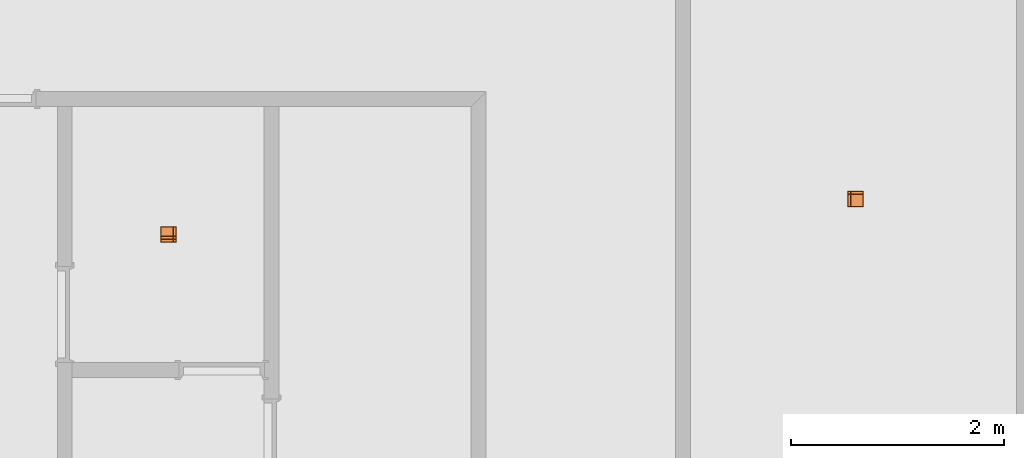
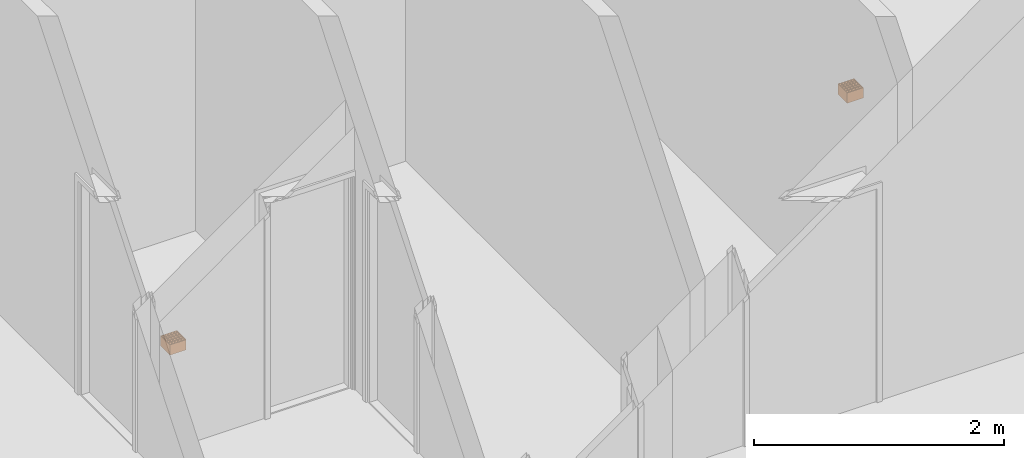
# One storey, part 86 of 112: 2 proxies.
"""IFC2X3 building model written with IfcOpenShell, lengths in millimetres."""

import ifcopenshell
import ifcopenshell.guid

model = None  # the IFC model being written
_history = None  # IfcOwnerHistory: only IFC2X3 demands one
_inside = {}  # id of a spatial element -> (the spatial element, [elements in it])
_under = {}  # id of a project, library or spatial element -> (it, [spatial elements below it])
_declared = {}  # id of a project -> (the project, [libraries it declares])
_typed = {}  # id of a type object -> (the type object, [elements of that type])
_made_of = {}  # id of a material, layer set ... -> (it, [elements and type objects made of it])


def new_model(schema):
    """Start an empty IFC model of exactly this schema.

    Asked for "IFC4X3", IfcOpenShell would pick the latest addendum, in which some entities
    have other attributes; the version numbers below select the first issue.
    IFC2X3 requires an IfcOwnerHistory on every rooted entity: one is made here for all.
    """
    global model, _history
    if schema == "IFC4X3":
        model = ifcopenshell.file(schema_version=(4, 3, 0, 0))
    else:
        model = ifcopenshell.file(schema=schema)
    _inside.clear()
    _under.clear()
    _declared.clear()
    _typed.clear()
    _made_of.clear()
    _history = None
    if model.schema == "IFC2X3":
        org = make("IfcOrganization", Name="unknown")
        user = make(
            "IfcPersonAndOrganization",
            ThePerson=make("IfcPerson", FamilyName="unknown"),
            TheOrganization=org,
        )
        app = make(
            "IfcApplication",
            ApplicationDeveloper=org,
            Version="unknown",
            ApplicationFullName="unknown",
            ApplicationIdentifier="unknown",
        )
        _history = make(
            "IfcOwnerHistory",
            OwningUser=user,
            OwningApplication=app,
            ChangeAction="ADDED",
            CreationDate=0,
        )
    return model


def make(cls, **values):
    """One entity of the class cls with the attributes given. An attribute that is None is left unset."""
    return model.create_entity(
        cls, **{name: value for name, value in values.items() if value is not None}
    )


def entity(cls, *values):
    """Any entity or typed value of the class cls, its attributes in the order of the schema. None: left unset."""
    e = model.create_entity(cls)
    for i, value in enumerate(values):
        if value is not None:
            e[i] = value
    return e


def rooted(cls, **values):
    """An entity with a GlobalId (a new one), such as an element, a storey or a relation."""
    return make(cls, GlobalId=ifcopenshell.guid.new(), OwnerHistory=_history, **values)


def si_unit(unit_type, name, prefix=None):
    """IfcSIUnit, for example si_unit("LENGTHUNIT", "METRE", prefix="MILLI")."""
    return make("IfcSIUnit", UnitType=unit_type, Prefix=prefix, Name=name)


def converted_unit(unit_type, name, factor, base, dimensions=None, offset=None):
    """IfcConversionBasedUnit, such as the inch: factor (a typed value) times the base unit."""
    return make(
        "IfcConversionBasedUnit"
        if offset is None
        else "IfcConversionBasedUnitWithOffset",
        ConversionOffset=offset,
        Dimensions=None
        if dimensions is None
        else entity("IfcDimensionalExponents", *dimensions),
        UnitType=unit_type,
        Name=name,
        ConversionFactor=make(
            "IfcMeasureWithUnit", ValueComponent=factor, UnitComponent=base
        ),
    )


def derived_unit(unit_type, elements):
    """IfcDerivedUnit: a product of units, each with its exponent."""
    return make(
        "IfcDerivedUnit",
        Elements=[
            make("IfcDerivedUnitElement", Unit=unit, Exponent=power)
            for unit, power in elements
        ],
        UnitType=unit_type,
    )


def money_unit(currency):
    """IfcMonetaryUnit."""
    return make("IfcMonetaryUnit", Currency=currency)


def assignment(units):
    """IfcUnitAssignment: the units of a project."""
    return None if units is None else make("IfcUnitAssignment", Units=units)


def point(xyz):
    """IfcCartesianPoint."""
    return None if xyz is None else make("IfcCartesianPoint", Coordinates=xyz)


def direction(xyz):
    """IfcDirection."""
    return None if xyz is None else make("IfcDirection", DirectionRatios=xyz)


def frame(location, z_axis=None, x_axis=None):
    """IfcAxis2Placement3D, a coordinate frame: its origin and axes. An axis left out is left unset."""
    return make(
        "IfcAxis2Placement3D",
        Location=point(location),
        Axis=direction(z_axis),
        RefDirection=direction(x_axis),
    )


def origin_with_axes():
    """The frame at (0, 0, 0) with the z axis (0, 0, 1) and the x axis (1, 0, 0) written out."""
    return frame((0.0, 0.0, 0.0), z_axis=(0.0, 0.0, 1.0), x_axis=(1.0, 0.0, 0.0))


def place(relative_to, where):
    """IfcLocalPlacement: puts the frame where relative to a parent placement (None: the world)."""
    return make(
        "IfcLocalPlacement", PlacementRelTo=relative_to, RelativePlacement=where
    )


def context(
    kind, dimensions, precision=None, world=None, true_north=None, identifier=None
):
    """IfcGeometricRepresentationContext, for example the 3D "Model" context."""
    return make(
        "IfcGeometricRepresentationContext",
        ContextIdentifier=identifier,
        ContextType=kind,
        CoordinateSpaceDimension=dimensions,
        Precision=precision,
        WorldCoordinateSystem=world,
        TrueNorth=true_north,
    )


def subcontext(parent, identifier, kind, view, scale=None):
    """IfcGeometricRepresentationSubContext, for example "Body" below "Model"."""
    return make(
        "IfcGeometricRepresentationSubContext",
        ContextIdentifier=identifier,
        ContextType=kind,
        ParentContext=parent,
        TargetScale=scale,
        TargetView=view,
    )


def project(units=None, contexts=None):
    """IfcProject with its units and contexts."""
    return rooted(
        "IfcProject",
        Name="project",
        RepresentationContexts=contexts,
        UnitsInContext=assignment(units),
    )


def spatial(cls, under=None, at=None, **own):
    """A site, building, storey or space (cls), placed at a placement, below another one or the project."""
    s = rooted(cls, ObjectPlacement=at, **own)
    if under is not None:
        _under.setdefault(under.id(), (under, []))[1].append(s)
    return s


def faces_of(points, faces, orient=None, outer=None):
    """IfcFace entities. A face is a list of loops; a loop is a list of indices into points, from 0.

    orient and outer hold one flag for each loop. By default every Orientation is true, the
    first loop of a face is its IfcFaceOuterBound and the others are IfcFaceBound.
    """
    made = []
    for i, loops in enumerate(faces):
        bounds = []
        for j, loop in enumerate(loops):
            is_outer = j == 0 if outer is None else outer[i][j]
            bounds.append(
                make(
                    "IfcFaceOuterBound" if is_outer else "IfcFaceBound",
                    Bound=make("IfcPolyLoop", Polygon=[points[k] for k in loop]),
                    Orientation=True if orient is None else orient[i][j],
                )
            )
        made.append(make("IfcFace", Bounds=bounds))
    return made


def faceted_brep(points, faces, orient=None, outer=None, voids=None):
    """IfcFacetedBrep: a solid bounded by flat faces; with voids (closed shells), ...WithVoids."""
    shared = [point(p) for p in points]
    hull = make("IfcClosedShell", CfsFaces=faces_of(shared, faces, orient, outer))
    if voids is None:
        return make("IfcFacetedBrep", Outer=hull)
    return make(
        "IfcFacetedBrepWithVoids",
        Outer=hull,
        Voids=[
            make(cls, CfsFaces=faces_of(shared, fs, o, b)) for cls, fs, o, b in voids
        ],
    )


def shape(context_of_items, identifier, shape_type, items):
    """IfcShapeRepresentation: the items that make up one representation, for example the "Body"."""
    return make(
        "IfcShapeRepresentation",
        ContextOfItems=context_of_items,
        RepresentationIdentifier=identifier,
        RepresentationType=shape_type,
        Items=items,
    )


def source(mapping_origin, context_of_items, identifier, shape_type, items):
    """IfcRepresentationMap: a shape defined once, which mapped items show again and again."""
    return make(
        "IfcRepresentationMap",
        MappingOrigin=mapping_origin,
        MappedRepresentation=shape(context_of_items, identifier, shape_type, items),
    )


def transform(
    local_origin,
    x_axis=None,
    y_axis=None,
    z_axis=None,
    scale=None,
    scale2=None,
    scale3=None,
    uniform=True,
):
    """IfcCartesianTransformationOperator3D, or its non-uniform kind. x_axis, y_axis, z_axis: its Axis1, 2, 3."""
    if uniform:
        return make(
            "IfcCartesianTransformationOperator3D",
            Axis1=direction(x_axis),
            Axis2=direction(y_axis),
            LocalOrigin=point(local_origin),
            Scale=scale,
            Axis3=direction(z_axis),
        )
    return make(
        "IfcCartesianTransformationOperator3DnonUniform",
        Axis1=direction(x_axis),
        Axis2=direction(y_axis),
        LocalOrigin=point(local_origin),
        Scale=scale,
        Axis3=direction(z_axis),
        Scale2=scale2,
        Scale3=scale3,
    )


def mapped(mapping_source, mapping_target):
    """IfcMappedItem: shows the shape of a source again, moved by a transform."""
    return make(
        "IfcMappedItem", MappingSource=mapping_source, MappingTarget=mapping_target
    )


def made_of(thing, what):
    """Note that an element or type object is made of a material, layer set ...; save() writes the relation."""
    if what is not None:
        _made_of.setdefault(what.id(), (what, []))[1].append(thing)
    return thing


def type_object(cls, material=None, **own):
    """A type object (cls), such as IfcWallType, which elements share."""
    return made_of(rooted(cls, **own), material)


def element(
    cls,
    number,
    at=None,
    inside=None,
    cuts=None,
    type_object=None,
    material=None,
    context=None,
    identifier="Body",
    shape_type=None,
    held_by="IfcProductDefinitionShape",
    body=None,
    shapes=None,
    **own,
):
    """One element of the class cls, such as IfcWall. Its Tag is "e" and its number.

    at: its placement. inside: the storey or other place that contains it. cuts: it is an
    opening in that element (IfcRelVoidsElement). A single representation is given by context,
    identifier, shape_type and body (its items); several are given by shapes. held_by: the class
    of the entity that holds the representations. save() writes the other relations.
    """
    e = rooted(cls, Tag="e%d" % number, ObjectPlacement=at, **own)
    if body is not None:
        shapes = [shape(context, identifier, shape_type, body)]
    if shapes is not None:
        e.Representation = make(held_by, Representations=shapes)
    if inside is not None:
        _inside.setdefault(inside.id(), (inside, []))[1].append(e)
    if cuts is not None:
        rooted(
            "IfcRelVoidsElement", RelatingBuildingElement=cuts, RelatedOpeningElement=e
        )
    if type_object is not None:
        _typed.setdefault(type_object.id(), (type_object, []))[1].append(e)
    return made_of(e, material)


def aggregate(whole, parts):
    """IfcRelAggregates: a whole, such as a stair, and the parts it consists of."""
    return rooted("IfcRelAggregates", RelatingObject=whole, RelatedObjects=parts)


def save(model, path):
    """Write the relations noted so far, then the file.

    IfcRelAggregates (storeys below a building ...), IfcRelContainedInSpatialStructure (elements
    in a storey), IfcRelDefinesByType, IfcRelAssociatesMaterial and IfcRelDeclares: one each for
    every whole, place, type object, material and project.
    """
    for whole, parts in _under.values():
        aggregate(whole, parts)
    for where, things in _inside.values():
        rooted(
            "IfcRelContainedInSpatialStructure",
            RelatedElements=things,
            RelatingStructure=where,
        )
    for kind, things in _typed.values():
        rooted("IfcRelDefinesByType", RelatedObjects=things, RelatingType=kind)
    for what, things in _made_of.values():
        rooted("IfcRelAssociatesMaterial", RelatedObjects=things, RelatingMaterial=what)
    for by, libraries in _declared.values():
        rooted("IfcRelDeclares", RelatingContext=by, RelatedDefinitions=libraries)
    model.write(path)


model = new_model("IFC2X3")

# Units and contexts
model_context = context("Model", 3, precision=0.01, world=origin_with_axes(), true_north=direction((0.0, 1.0)))
body_context = subcontext(model_context, "Body", "Model", "MODEL_VIEW")
ifc_project = project(units=[si_unit("LENGTHUNIT", "METRE", prefix="MILLI"), si_unit("AREAUNIT", "SQUARE_METRE"), si_unit("VOLUMEUNIT", "CUBIC_METRE"), converted_unit("PLANEANGLEUNIT", "DEGREE", entity("IfcPlaneAngleMeasure", 0.0174532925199), si_unit("PLANEANGLEUNIT", "RADIAN"), dimensions=[0, 0, 0, 0, 0, 0, 0]), si_unit("SOLIDANGLEUNIT", "STERADIAN"), money_unit("EUR"), converted_unit("TIMEUNIT", "Year", entity("IfcTimeMeasure", 31556926.0), si_unit("TIMEUNIT", "SECOND"), dimensions=[0, 0, 1, 0, 0, 0, 0]), si_unit("MASSUNIT", "GRAM", prefix="KILO"), si_unit("THERMODYNAMICTEMPERATUREUNIT", "DEGREE_CELSIUS"), si_unit("LUMINOUSINTENSITYUNIT", "LUMEN"), si_unit("ENERGYUNIT", "JOULE", prefix="MEGA"), derived_unit("THERMALCONDUCTANCEUNIT", [(si_unit("POWERUNIT", "WATT"), 1), (si_unit("LENGTHUNIT", "METRE"), -1), (si_unit("THERMODYNAMICTEMPERATUREUNIT", "KELVIN"), -1)]), derived_unit("SPECIFICHEATCAPACITYUNIT", [(si_unit("ENERGYUNIT", "JOULE"), 1), (si_unit("MASSUNIT", "GRAM", prefix="KILO"), -1), (si_unit("THERMODYNAMICTEMPERATUREUNIT", "KELVIN"), -1)]), derived_unit("MASSDENSITYUNIT", [(si_unit("MASSUNIT", "GRAM", prefix="KILO"), 1), (si_unit("VOLUMEUNIT", "CUBIC_METRE"), -1)])], contexts=[model_context])

# Site, building, storey
site_placement = place(None, origin_with_axes())
site = spatial("IfcSite", under=ifc_project, at=site_placement, Name="Politse- ja Piirivalveameti ning Päästeameti ühishoone", CompositionType="ELEMENT")
building_placement = place(site_placement, origin_with_axes())
building = spatial("IfcBuilding", under=site, at=building_placement, Name="Politse- ja Piirivalveameti ning Päästeameti ühishoone", CompositionType="ELEMENT")
storey_placement = place(building_placement, origin_with_axes())
storey = spatial("IfcBuildingStorey", under=building, at=storey_placement, Name="Esimene korrus", CompositionType="ELEMENT", Elevation=0.0)

# Proxies
building_element_proxy_type = type_object("IfcBuildingElementProxyType", Name="Grid 23", PredefinedType="NOTDEFINED")
shared_shape = source(origin_with_axes(), body_context, "Body", "Brep", [
    faceted_brep([(0.0, 0.0, 0.0), (5.0, 5.0, 0.0), (5.0, 5.0, 100.0), (0.0, 0.0, 100.0), (0.0, 150.0, 0.0), (5.0, 145.0, 0.0), (5.0, 119.5, 0.0), (5.0, 117.5, 0.0), (5.0, 90.5, 0.0), (5.0, 88.5, 0.0), (5.0, 61.5, 0.0), (5.0, 59.5, 0.0), (5.0, 32.5, 0.0), (5.0, 30.5, 0.0), (5.0, 30.5, 100.0), (5.0, 32.5, 100.0), (5.0, 59.5, 100.0), (5.0, 61.5, 100.0), (5.0, 88.5, 100.0), (5.0, 90.5, 100.0), (5.0, 117.5, 100.0), (5.0, 119.5, 100.0), (5.0, 145.0, 100.0), (0.0, 150.0, 100.0)], [[[0, 1, 2, 3]], [[0, 4, 5, 6, 7, 8, 9, 10, 11, 12, 13, 1]], [[1, 13, 14, 2]], [[3, 2, 14, 15, 16, 17, 18, 19, 20, 21, 22, 23]], [[4, 0, 3, 23]], [[5, 4, 23, 22]], [[6, 5, 22, 21]], [[7, 6, 21, 20]], [[8, 7, 20, 19]], [[9, 8, 19, 18]], [[10, 9, 18, 17]], [[11, 10, 17, 16]], [[12, 11, 16, 15]], [[13, 12, 15, 14]]]),
    faceted_brep([(150.0, 150.0, 0.0), (145.0, 145.0, 0.0), (145.0, 145.0, 100.0), (150.0, 150.0, 100.0), (150.0, 0.0, 0.0), (145.0, 5.0, 0.0), (145.0, 30.5, 0.0), (145.0, 32.5, 0.0), (145.0, 59.5, 0.0), (145.0, 61.5, 0.0), (145.0, 88.5, 0.0), (145.0, 90.5, 0.0), (145.0, 117.5, 0.0), (145.0, 119.5, 0.0), (145.0, 119.5, 100.0), (145.0, 117.5, 100.0), (145.0, 90.5, 100.0), (145.0, 88.5, 100.0), (145.0, 61.5, 100.0), (145.0, 59.5, 100.0), (145.0, 32.5, 100.0), (145.0, 30.5, 100.0), (145.0, 5.0, 100.0), (150.0, 0.0, 100.0)], [[[0, 1, 2, 3]], [[0, 4, 5, 6, 7, 8, 9, 10, 11, 12, 13, 1]], [[1, 13, 14, 2]], [[3, 2, 14, 15, 16, 17, 18, 19, 20, 21, 22, 23]], [[4, 0, 3, 23]], [[5, 4, 23, 22]], [[6, 5, 22, 21]], [[7, 6, 21, 20]], [[8, 7, 20, 19]], [[9, 8, 19, 18]], [[10, 9, 18, 17]], [[11, 10, 17, 16]], [[12, 11, 16, 15]], [[13, 12, 15, 14]]]),
    faceted_brep([(150.0, 0.0, 0.0), (145.0, 5.0, 0.0), (145.0, 5.0, 100.0), (150.0, 0.0, 100.0), (0.0, 0.0, 0.0), (5.0, 5.0, 0.0), (30.5, 5.0, 0.0), (32.5, 5.0, 0.0), (59.5, 5.0, 0.0), (61.5, 5.0, 0.0), (88.5, 5.0, 0.0), (90.5, 5.0, 0.0), (117.5, 5.0, 0.0), (119.5, 5.0, 0.0), (119.5, 5.0, 100.0), (117.5, 5.0, 100.0), (90.5, 5.0, 100.0), (88.5, 5.0, 100.0), (61.5, 5.0, 100.0), (59.5, 5.0, 100.0), (32.5, 5.0, 100.0), (30.5, 5.0, 100.0), (5.0, 5.0, 100.0), (0.0, 0.0, 100.0)], [[[0, 1, 2, 3]], [[0, 4, 5, 6, 7, 8, 9, 10, 11, 12, 13, 1]], [[1, 13, 14, 2]], [[3, 2, 14, 15, 16, 17, 18, 19, 20, 21, 22, 23]], [[4, 0, 3, 23]], [[5, 4, 23, 22]], [[6, 5, 22, 21]], [[7, 6, 21, 20]], [[8, 7, 20, 19]], [[9, 8, 19, 18]], [[10, 9, 18, 17]], [[11, 10, 17, 16]], [[12, 11, 16, 15]], [[13, 12, 15, 14]]]),
    faceted_brep([(0.0, 150.0, 0.0), (5.0, 145.0, 0.0), (5.0, 145.0, 100.0), (0.0, 150.0, 100.0), (150.0, 150.0, 0.0), (145.0, 145.0, 0.0), (119.5, 145.0, 0.0), (117.5, 145.0, 0.0), (90.5, 145.0, 0.0), (88.5, 145.0, 0.0), (61.5, 145.0, 0.0), (59.5, 145.0, 0.0), (32.5, 145.0, 0.0), (30.5, 145.0, 0.0), (30.5, 145.0, 100.0), (32.5, 145.0, 100.0), (59.5, 145.0, 100.0), (61.5, 145.0, 100.0), (88.5, 145.0, 100.0), (90.5, 145.0, 100.0), (117.5, 145.0, 100.0), (119.5, 145.0, 100.0), (145.0, 145.0, 100.0), (150.0, 150.0, 100.0)], [[[0, 1, 2, 3]], [[0, 4, 5, 6, 7, 8, 9, 10, 11, 12, 13, 1]], [[1, 13, 14, 2]], [[3, 2, 14, 15, 16, 17, 18, 19, 20, 21, 22, 23]], [[4, 0, 3, 23]], [[5, 4, 23, 22]], [[6, 5, 22, 21]], [[7, 6, 21, 20]], [[8, 7, 20, 19]], [[9, 8, 19, 18]], [[10, 9, 18, 17]], [[11, 10, 17, 16]], [[12, 11, 16, 15]], [[13, 12, 15, 14]]]),
    faceted_brep([(30.5, 5.0, 0.0), (32.5, 5.0, 0.0), (32.5, 5.0, 100.0), (30.5, 5.0, 100.0), (30.5, 30.5, 0.0), (30.5, 32.5, 0.0), (30.5, 59.5, 0.0), (30.5, 61.5, 0.0), (30.5, 88.5, 0.0), (30.5, 90.5, 0.0), (30.5, 117.5, 0.0), (30.5, 119.5, 0.0), (30.5, 145.0, 0.0), (32.5, 145.0, 0.0), (32.5, 119.5, 0.0), (32.5, 117.5, 0.0), (32.5, 90.5, 0.0), (32.5, 88.5, 0.0), (32.5, 61.5, 0.0), (32.5, 59.5, 0.0), (32.5, 32.5, 0.0), (32.5, 30.5, 0.0), (32.5, 30.5, 100.0), (32.5, 32.5, 100.0), (32.5, 59.5, 100.0), (32.5, 61.5, 100.0), (32.5, 88.5, 100.0), (32.5, 90.5, 100.0), (32.5, 117.5, 100.0), (32.5, 119.5, 100.0), (32.5, 145.0, 100.0), (30.5, 145.0, 100.0), (30.5, 119.5, 100.0), (30.5, 117.5, 100.0), (30.5, 90.5, 100.0), (30.5, 88.5, 100.0), (30.5, 61.5, 100.0), (30.5, 59.5, 100.0), (30.5, 32.5, 100.0), (30.5, 30.5, 100.0)], [[[0, 1, 2, 3]], [[0, 4, 5, 6, 7, 8, 9, 10, 11, 12, 13, 14, 15, 16, 17, 18, 19, 20, 21, 1]], [[1, 21, 22, 2]], [[3, 2, 22, 23, 24, 25, 26, 27, 28, 29, 30, 31, 32, 33, 34, 35, 36, 37, 38, 39]], [[4, 0, 3, 39]], [[5, 4, 39, 38]], [[6, 5, 38, 37]], [[7, 6, 37, 36]], [[8, 7, 36, 35]], [[9, 8, 35, 34]], [[10, 9, 34, 33]], [[11, 10, 33, 32]], [[12, 11, 32, 31]], [[13, 12, 31, 30]], [[14, 13, 30, 29]], [[15, 14, 29, 28]], [[16, 15, 28, 27]], [[17, 16, 27, 26]], [[18, 17, 26, 25]], [[19, 18, 25, 24]], [[20, 19, 24, 23]], [[21, 20, 23, 22]]]),
    faceted_brep([(59.5, 5.0, 0.0), (61.5, 5.0, 0.0), (61.5, 5.0, 100.0), (59.5, 5.0, 100.0), (59.5, 30.5, 0.0), (59.5, 32.5, 0.0), (59.5, 59.5, 0.0), (59.5, 61.5, 0.0), (59.5, 88.5, 0.0), (59.5, 90.5, 0.0), (59.5, 117.5, 0.0), (59.5, 119.5, 0.0), (59.5, 145.0, 0.0), (61.5, 145.0, 0.0), (61.5, 119.5, 0.0), (61.5, 117.5, 0.0), (61.5, 90.5, 0.0), (61.5, 88.5, 0.0), (61.5, 61.5, 0.0), (61.5, 59.5, 0.0), (61.5, 32.5, 0.0), (61.5, 30.5, 0.0), (61.5, 30.5, 100.0), (61.5, 32.5, 100.0), (61.5, 59.5, 100.0), (61.5, 61.5, 100.0), (61.5, 88.5, 100.0), (61.5, 90.5, 100.0), (61.5, 117.5, 100.0), (61.5, 119.5, 100.0), (61.5, 145.0, 100.0), (59.5, 145.0, 100.0), (59.5, 119.5, 100.0), (59.5, 117.5, 100.0), (59.5, 90.5, 100.0), (59.5, 88.5, 100.0), (59.5, 61.5, 100.0), (59.5, 59.5, 100.0), (59.5, 32.5, 100.0), (59.5, 30.5, 100.0)], [[[0, 1, 2, 3]], [[0, 4, 5, 6, 7, 8, 9, 10, 11, 12, 13, 14, 15, 16, 17, 18, 19, 20, 21, 1]], [[1, 21, 22, 2]], [[3, 2, 22, 23, 24, 25, 26, 27, 28, 29, 30, 31, 32, 33, 34, 35, 36, 37, 38, 39]], [[4, 0, 3, 39]], [[5, 4, 39, 38]], [[6, 5, 38, 37]], [[7, 6, 37, 36]], [[8, 7, 36, 35]], [[9, 8, 35, 34]], [[10, 9, 34, 33]], [[11, 10, 33, 32]], [[12, 11, 32, 31]], [[13, 12, 31, 30]], [[14, 13, 30, 29]], [[15, 14, 29, 28]], [[16, 15, 28, 27]], [[17, 16, 27, 26]], [[18, 17, 26, 25]], [[19, 18, 25, 24]], [[20, 19, 24, 23]], [[21, 20, 23, 22]]]),
    faceted_brep([(88.5, 5.0, 0.0), (90.5, 5.0, 0.0), (90.5, 5.0, 100.0), (88.5, 5.0, 100.0), (88.5, 30.5, 0.0), (88.5, 32.5, 0.0), (88.5, 59.5, 0.0), (88.5, 61.5, 0.0), (88.5, 88.5, 0.0), (88.5, 90.5, 0.0), (88.5, 117.5, 0.0), (88.5, 119.5, 0.0), (88.5, 145.0, 0.0), (90.5, 145.0, 0.0), (90.5, 119.5, 0.0), (90.5, 117.5, 0.0), (90.5, 90.5, 0.0), (90.5, 88.5, 0.0), (90.5, 61.5, 0.0), (90.5, 59.5, 0.0), (90.5, 32.5, 0.0), (90.5, 30.5, 0.0), (90.5, 30.5, 100.0), (90.5, 32.5, 100.0), (90.5, 59.5, 100.0), (90.5, 61.5, 100.0), (90.5, 88.5, 100.0), (90.5, 90.5, 100.0), (90.5, 117.5, 100.0), (90.5, 119.5, 100.0), (90.5, 145.0, 100.0), (88.5, 145.0, 100.0), (88.5, 119.5, 100.0), (88.5, 117.5, 100.0), (88.5, 90.5, 100.0), (88.5, 88.5, 100.0), (88.5, 61.5, 100.0), (88.5, 59.5, 100.0), (88.5, 32.5, 100.0), (88.5, 30.5, 100.0)], [[[0, 1, 2, 3]], [[0, 4, 5, 6, 7, 8, 9, 10, 11, 12, 13, 14, 15, 16, 17, 18, 19, 20, 21, 1]], [[1, 21, 22, 2]], [[3, 2, 22, 23, 24, 25, 26, 27, 28, 29, 30, 31, 32, 33, 34, 35, 36, 37, 38, 39]], [[4, 0, 3, 39]], [[5, 4, 39, 38]], [[6, 5, 38, 37]], [[7, 6, 37, 36]], [[8, 7, 36, 35]], [[9, 8, 35, 34]], [[10, 9, 34, 33]], [[11, 10, 33, 32]], [[12, 11, 32, 31]], [[13, 12, 31, 30]], [[14, 13, 30, 29]], [[15, 14, 29, 28]], [[16, 15, 28, 27]], [[17, 16, 27, 26]], [[18, 17, 26, 25]], [[19, 18, 25, 24]], [[20, 19, 24, 23]], [[21, 20, 23, 22]]]),
    faceted_brep([(117.5, 5.0, 0.0), (119.5, 5.0, 0.0), (119.5, 5.0, 100.0), (117.5, 5.0, 100.0), (117.5, 30.5, 0.0), (117.5, 32.5, 0.0), (117.5, 59.5, 0.0), (117.5, 61.5, 0.0), (117.5, 88.5, 0.0), (117.5, 90.5, 0.0), (117.5, 117.5, 0.0), (117.5, 119.5, 0.0), (117.5, 145.0, 0.0), (119.5, 145.0, 0.0), (119.5, 119.5, 0.0), (119.5, 117.5, 0.0), (119.5, 90.5, 0.0), (119.5, 88.5, 0.0), (119.5, 61.5, 0.0), (119.5, 59.5, 0.0), (119.5, 32.5, 0.0), (119.5, 30.5, 0.0), (119.5, 30.5, 100.0), (119.5, 32.5, 100.0), (119.5, 59.5, 100.0), (119.5, 61.5, 100.0), (119.5, 88.5, 100.0), (119.5, 90.5, 100.0), (119.5, 117.5, 100.0), (119.5, 119.5, 100.0), (119.5, 145.0, 100.0), (117.5, 145.0, 100.0), (117.5, 119.5, 100.0), (117.5, 117.5, 100.0), (117.5, 90.5, 100.0), (117.5, 88.5, 100.0), (117.5, 61.5, 100.0), (117.5, 59.5, 100.0), (117.5, 32.5, 100.0), (117.5, 30.5, 100.0)], [[[0, 1, 2, 3]], [[0, 4, 5, 6, 7, 8, 9, 10, 11, 12, 13, 14, 15, 16, 17, 18, 19, 20, 21, 1]], [[1, 21, 22, 2]], [[3, 2, 22, 23, 24, 25, 26, 27, 28, 29, 30, 31, 32, 33, 34, 35, 36, 37, 38, 39]], [[4, 0, 3, 39]], [[5, 4, 39, 38]], [[6, 5, 38, 37]], [[7, 6, 37, 36]], [[8, 7, 36, 35]], [[9, 8, 35, 34]], [[10, 9, 34, 33]], [[11, 10, 33, 32]], [[12, 11, 32, 31]], [[13, 12, 31, 30]], [[14, 13, 30, 29]], [[15, 14, 29, 28]], [[16, 15, 28, 27]], [[17, 16, 27, 26]], [[18, 17, 26, 25]], [[19, 18, 25, 24]], [[20, 19, 24, 23]], [[21, 20, 23, 22]]]),
    faceted_brep([(30.5, 30.5, 0.0), (30.5, 32.5, 0.0), (30.5, 32.5, 100.0), (30.5, 30.5, 100.0), (5.0, 30.5, 0.0), (5.0, 32.5, 0.0), (5.0, 32.5, 100.0), (5.0, 30.5, 100.0)], [[[0, 1, 2, 3]], [[0, 4, 5, 1]], [[1, 5, 6, 2]], [[3, 2, 6, 7]], [[4, 0, 3, 7]], [[5, 4, 7, 6]]]),
    faceted_brep([(30.5, 59.5, 0.0), (30.5, 61.5, 0.0), (30.5, 61.5, 100.0), (30.5, 59.5, 100.0), (5.0, 59.5, 0.0), (5.0, 61.5, 0.0), (5.0, 61.5, 100.0), (5.0, 59.5, 100.0)], [[[0, 1, 2, 3]], [[0, 4, 5, 1]], [[1, 5, 6, 2]], [[3, 2, 6, 7]], [[4, 0, 3, 7]], [[5, 4, 7, 6]]]),
    faceted_brep([(30.5, 88.5, 0.0), (30.5, 90.5, 0.0), (30.5, 90.5, 100.0), (30.5, 88.5, 100.0), (5.0, 88.5, 0.0), (5.0, 90.5, 0.0), (5.0, 90.5, 100.0), (5.0, 88.5, 100.0)], [[[0, 1, 2, 3]], [[0, 4, 5, 1]], [[1, 5, 6, 2]], [[3, 2, 6, 7]], [[4, 0, 3, 7]], [[5, 4, 7, 6]]]),
    faceted_brep([(30.5, 117.5, 0.0), (30.5, 119.5, 0.0), (30.5, 119.5, 100.0), (30.5, 117.5, 100.0), (5.0, 117.5, 0.0), (5.0, 119.5, 0.0), (5.0, 119.5, 100.0), (5.0, 117.5, 100.0)], [[[0, 1, 2, 3]], [[0, 4, 5, 1]], [[1, 5, 6, 2]], [[3, 2, 6, 7]], [[4, 0, 3, 7]], [[5, 4, 7, 6]]]),
    faceted_brep([(59.5, 30.5, 0.0), (59.5, 32.5, 0.0), (59.5, 32.5, 100.0), (59.5, 30.5, 100.0), (32.5, 30.5, 0.0), (32.5, 32.5, 0.0), (32.5, 32.5, 100.0), (32.5, 30.5, 100.0)], [[[0, 1, 2, 3]], [[0, 4, 5, 1]], [[1, 5, 6, 2]], [[3, 2, 6, 7]], [[4, 0, 3, 7]], [[5, 4, 7, 6]]]),
    faceted_brep([(59.5, 59.5, 0.0), (59.5, 61.5, 0.0), (59.5, 61.5, 100.0), (59.5, 59.5, 100.0), (32.5, 59.5, 0.0), (32.5, 61.5, 0.0), (32.5, 61.5, 100.0), (32.5, 59.5, 100.0)], [[[0, 1, 2, 3]], [[0, 4, 5, 1]], [[1, 5, 6, 2]], [[3, 2, 6, 7]], [[4, 0, 3, 7]], [[5, 4, 7, 6]]]),
    faceted_brep([(59.5, 88.5, 0.0), (59.5, 90.5, 0.0), (59.5, 90.5, 100.0), (59.5, 88.5, 100.0), (32.5, 88.5, 0.0), (32.5, 90.5, 0.0), (32.5, 90.5, 100.0), (32.5, 88.5, 100.0)], [[[0, 1, 2, 3]], [[0, 4, 5, 1]], [[1, 5, 6, 2]], [[3, 2, 6, 7]], [[4, 0, 3, 7]], [[5, 4, 7, 6]]]),
    faceted_brep([(59.5, 117.5, 0.0), (59.5, 119.5, 0.0), (59.5, 119.5, 100.0), (59.5, 117.5, 100.0), (32.5, 117.5, 0.0), (32.5, 119.5, 0.0), (32.5, 119.5, 100.0), (32.5, 117.5, 100.0)], [[[0, 1, 2, 3]], [[0, 4, 5, 1]], [[1, 5, 6, 2]], [[3, 2, 6, 7]], [[4, 0, 3, 7]], [[5, 4, 7, 6]]]),
    faceted_brep([(88.5, 30.5, 0.0), (88.5, 32.5, 0.0), (88.5, 32.5, 100.0), (88.5, 30.5, 100.0), (61.5, 30.5, 0.0), (61.5, 32.5, 0.0), (61.5, 32.5, 100.0), (61.5, 30.5, 100.0)], [[[0, 1, 2, 3]], [[0, 4, 5, 1]], [[1, 5, 6, 2]], [[3, 2, 6, 7]], [[4, 0, 3, 7]], [[5, 4, 7, 6]]]),
    faceted_brep([(88.5, 59.5, 0.0), (88.5, 61.5, 0.0), (88.5, 61.5, 100.0), (88.5, 59.5, 100.0), (61.5, 59.5, 0.0), (61.5, 61.5, 0.0), (61.5, 61.5, 100.0), (61.5, 59.5, 100.0)], [[[0, 1, 2, 3]], [[0, 4, 5, 1]], [[1, 5, 6, 2]], [[3, 2, 6, 7]], [[4, 0, 3, 7]], [[5, 4, 7, 6]]]),
    faceted_brep([(88.5, 88.5, 0.0), (88.5, 90.5, 0.0), (88.5, 90.5, 100.0), (88.5, 88.5, 100.0), (61.5, 88.5, 0.0), (61.5, 90.5, 0.0), (61.5, 90.5, 100.0), (61.5, 88.5, 100.0)], [[[0, 1, 2, 3]], [[0, 4, 5, 1]], [[1, 5, 6, 2]], [[3, 2, 6, 7]], [[4, 0, 3, 7]], [[5, 4, 7, 6]]]),
    faceted_brep([(88.5, 117.5, 0.0), (88.5, 119.5, 0.0), (88.5, 119.5, 100.0), (88.5, 117.5, 100.0), (61.5, 117.5, 0.0), (61.5, 119.5, 0.0), (61.5, 119.5, 100.0), (61.5, 117.5, 100.0)], [[[0, 1, 2, 3]], [[0, 4, 5, 1]], [[1, 5, 6, 2]], [[3, 2, 6, 7]], [[4, 0, 3, 7]], [[5, 4, 7, 6]]]),
    faceted_brep([(117.5, 30.5, 0.0), (117.5, 32.5, 0.0), (117.5, 32.5, 100.0), (117.5, 30.5, 100.0), (90.5, 30.5, 0.0), (90.5, 32.5, 0.0), (90.5, 32.5, 100.0), (90.5, 30.5, 100.0)], [[[0, 1, 2, 3]], [[0, 4, 5, 1]], [[1, 5, 6, 2]], [[3, 2, 6, 7]], [[4, 0, 3, 7]], [[5, 4, 7, 6]]]),
    faceted_brep([(117.5, 59.5, 0.0), (117.5, 61.5, 0.0), (117.5, 61.5, 100.0), (117.5, 59.5, 100.0), (90.5, 59.5, 0.0), (90.5, 61.5, 0.0), (90.5, 61.5, 100.0), (90.5, 59.5, 100.0)], [[[0, 1, 2, 3]], [[0, 4, 5, 1]], [[1, 5, 6, 2]], [[3, 2, 6, 7]], [[4, 0, 3, 7]], [[5, 4, 7, 6]]]),
    faceted_brep([(117.5, 88.5, 0.0), (117.5, 90.5, 0.0), (117.5, 90.5, 100.0), (117.5, 88.5, 100.0), (90.5, 88.5, 0.0), (90.5, 90.5, 0.0), (90.5, 90.5, 100.0), (90.5, 88.5, 100.0)], [[[0, 1, 2, 3]], [[0, 4, 5, 1]], [[1, 5, 6, 2]], [[3, 2, 6, 7]], [[4, 0, 3, 7]], [[5, 4, 7, 6]]]),
    faceted_brep([(117.5, 117.5, 0.0), (117.5, 119.5, 0.0), (117.5, 119.5, 100.0), (117.5, 117.5, 100.0), (90.5, 117.5, 0.0), (90.5, 119.5, 0.0), (90.5, 119.5, 100.0), (90.5, 117.5, 100.0)], [[[0, 1, 2, 3]], [[0, 4, 5, 1]], [[1, 5, 6, 2]], [[3, 2, 6, 7]], [[4, 0, 3, 7]], [[5, 4, 7, 6]]]),
    faceted_brep([(145.0, 30.5, 0.0), (145.0, 32.5, 0.0), (145.0, 32.5, 100.0), (145.0, 30.5, 100.0), (119.5, 30.5, 0.0), (119.5, 32.5, 0.0), (119.5, 32.5, 100.0), (119.5, 30.5, 100.0)], [[[0, 1, 2, 3]], [[0, 4, 5, 1]], [[1, 5, 6, 2]], [[3, 2, 6, 7]], [[4, 0, 3, 7]], [[5, 4, 7, 6]]]),
    faceted_brep([(145.0, 59.5, 0.0), (145.0, 61.5, 0.0), (145.0, 61.5, 100.0), (145.0, 59.5, 100.0), (119.5, 59.5, 0.0), (119.5, 61.5, 0.0), (119.5, 61.5, 100.0), (119.5, 59.5, 100.0)], [[[0, 1, 2, 3]], [[0, 4, 5, 1]], [[1, 5, 6, 2]], [[3, 2, 6, 7]], [[4, 0, 3, 7]], [[5, 4, 7, 6]]]),
    faceted_brep([(145.0, 88.5, 0.0), (145.0, 90.5, 0.0), (145.0, 90.5, 100.0), (145.0, 88.5, 100.0), (119.5, 88.5, 0.0), (119.5, 90.5, 0.0), (119.5, 90.5, 100.0), (119.5, 88.5, 100.0)], [[[0, 1, 2, 3]], [[0, 4, 5, 1]], [[1, 5, 6, 2]], [[3, 2, 6, 7]], [[4, 0, 3, 7]], [[5, 4, 7, 6]]]),
    faceted_brep([(145.0, 117.5, 0.0), (145.0, 119.5, 0.0), (145.0, 119.5, 100.0), (145.0, 117.5, 100.0), (119.5, 117.5, 0.0), (119.5, 119.5, 0.0), (119.5, 119.5, 100.0), (119.5, 117.5, 100.0)], [[[0, 1, 2, 3]], [[0, 4, 5, 1]], [[1, 5, 6, 2]], [[3, 2, 6, 7]], [[4, 0, 3, 7]], [[5, 4, 7, 6]]]),
    faceted_brep([(5.0, 5.0, 43.65), (30.5, 5.0, 43.65), (30.5, 5.0, 56.35), (5.0, 5.0, 56.35), (5.0, 30.5, 43.65), (30.5, 30.5, 43.65), (30.5, 30.5, 56.35), (5.0, 30.5, 56.35)], [[[0, 1, 2, 3]], [[0, 4, 5, 1]], [[1, 5, 6, 2]], [[3, 2, 6, 7]], [[4, 0, 3, 7]], [[5, 4, 7, 6]]]),
    faceted_brep([(5.0, 32.5, 43.65), (30.5, 32.5, 43.65), (30.5, 32.5, 56.35), (5.0, 32.5, 56.35), (5.0, 59.5, 43.65), (30.5, 59.5, 43.65), (30.5, 59.5, 56.35), (5.0, 59.5, 56.35)], [[[0, 1, 2, 3]], [[0, 4, 5, 1]], [[1, 5, 6, 2]], [[3, 2, 6, 7]], [[4, 0, 3, 7]], [[5, 4, 7, 6]]]),
    faceted_brep([(5.0, 61.5, 43.65), (30.5, 61.5, 43.65), (30.5, 61.5, 56.35), (5.0, 61.5, 56.35), (5.0, 88.5, 43.65), (30.5, 88.5, 43.65), (30.5, 88.5, 56.35), (5.0, 88.5, 56.35)], [[[0, 1, 2, 3]], [[0, 4, 5, 1]], [[1, 5, 6, 2]], [[3, 2, 6, 7]], [[4, 0, 3, 7]], [[5, 4, 7, 6]]]),
    faceted_brep([(5.0, 90.5, 43.65), (30.5, 90.5, 43.65), (30.5, 90.5, 56.35), (5.0, 90.5, 56.35), (5.0, 117.5, 43.65), (30.5, 117.5, 43.65), (30.5, 117.5, 56.35), (5.0, 117.5, 56.35)], [[[0, 1, 2, 3]], [[0, 4, 5, 1]], [[1, 5, 6, 2]], [[3, 2, 6, 7]], [[4, 0, 3, 7]], [[5, 4, 7, 6]]]),
    faceted_brep([(5.0, 119.5, 43.65), (30.5, 119.5, 43.65), (30.5, 119.5, 56.35), (5.0, 119.5, 56.35), (5.0, 145.0, 43.65), (30.5, 145.0, 43.65), (30.5, 145.0, 56.35), (5.0, 145.0, 56.35)], [[[0, 1, 2, 3]], [[0, 4, 5, 1]], [[1, 5, 6, 2]], [[3, 2, 6, 7]], [[4, 0, 3, 7]], [[5, 4, 7, 6]]]),
    faceted_brep([(32.5, 5.0, 43.65), (59.5, 5.0, 43.65), (59.5, 5.0, 56.35), (32.5, 5.0, 56.35), (32.5, 30.5, 43.65), (59.5, 30.5, 43.65), (59.5, 30.5, 56.35), (32.5, 30.5, 56.35)], [[[0, 1, 2, 3]], [[0, 4, 5, 1]], [[1, 5, 6, 2]], [[3, 2, 6, 7]], [[4, 0, 3, 7]], [[5, 4, 7, 6]]]),
    faceted_brep([(32.5, 32.5, 43.65), (59.5, 32.5, 43.65), (59.5, 32.5, 56.35), (32.5, 32.5, 56.35), (32.5, 59.5, 43.65), (59.5, 59.5, 43.65), (59.5, 59.5, 56.35), (32.5, 59.5, 56.35)], [[[0, 1, 2, 3]], [[0, 4, 5, 1]], [[1, 5, 6, 2]], [[3, 2, 6, 7]], [[4, 0, 3, 7]], [[5, 4, 7, 6]]]),
    faceted_brep([(32.5, 61.5, 43.65), (59.5, 61.5, 43.65), (59.5, 61.5, 56.35), (32.5, 61.5, 56.35), (32.5, 88.5, 43.65), (59.5, 88.5, 43.65), (59.5, 88.5, 56.35), (32.5, 88.5, 56.35)], [[[0, 1, 2, 3]], [[0, 4, 5, 1]], [[1, 5, 6, 2]], [[3, 2, 6, 7]], [[4, 0, 3, 7]], [[5, 4, 7, 6]]]),
    faceted_brep([(32.5, 90.5, 43.65), (59.5, 90.5, 43.65), (59.5, 90.5, 56.35), (32.5, 90.5, 56.35), (32.5, 117.5, 43.65), (59.5, 117.5, 43.65), (59.5, 117.5, 56.35), (32.5, 117.5, 56.35)], [[[0, 1, 2, 3]], [[0, 4, 5, 1]], [[1, 5, 6, 2]], [[3, 2, 6, 7]], [[4, 0, 3, 7]], [[5, 4, 7, 6]]]),
    faceted_brep([(32.5, 119.5, 43.65), (59.5, 119.5, 43.65), (59.5, 119.5, 56.35), (32.5, 119.5, 56.35), (32.5, 145.0, 43.65), (59.5, 145.0, 43.65), (59.5, 145.0, 56.35), (32.5, 145.0, 56.35)], [[[0, 1, 2, 3]], [[0, 4, 5, 1]], [[1, 5, 6, 2]], [[3, 2, 6, 7]], [[4, 0, 3, 7]], [[5, 4, 7, 6]]]),
    faceted_brep([(61.5, 5.0, 43.65), (88.5, 5.0, 43.65), (88.5, 5.0, 56.35), (61.5, 5.0, 56.35), (61.5, 30.5, 43.65), (88.5, 30.5, 43.65), (88.5, 30.5, 56.35), (61.5, 30.5, 56.35)], [[[0, 1, 2, 3]], [[0, 4, 5, 1]], [[1, 5, 6, 2]], [[3, 2, 6, 7]], [[4, 0, 3, 7]], [[5, 4, 7, 6]]]),
    faceted_brep([(61.5, 32.5, 43.65), (88.5, 32.5, 43.65), (88.5, 32.5, 56.35), (61.5, 32.5, 56.35), (61.5, 59.5, 43.65), (88.5, 59.5, 43.65), (88.5, 59.5, 56.35), (61.5, 59.5, 56.35)], [[[0, 1, 2, 3]], [[0, 4, 5, 1]], [[1, 5, 6, 2]], [[3, 2, 6, 7]], [[4, 0, 3, 7]], [[5, 4, 7, 6]]]),
    faceted_brep([(61.5, 61.5, 43.65), (88.5, 61.5, 43.65), (88.5, 61.5, 56.35), (61.5, 61.5, 56.35), (61.5, 88.5, 43.65), (88.5, 88.5, 43.65), (88.5, 88.5, 56.35), (61.5, 88.5, 56.35)], [[[0, 1, 2, 3]], [[0, 4, 5, 1]], [[1, 5, 6, 2]], [[3, 2, 6, 7]], [[4, 0, 3, 7]], [[5, 4, 7, 6]]]),
    faceted_brep([(61.5, 90.5, 43.65), (88.5, 90.5, 43.65), (88.5, 90.5, 56.35), (61.5, 90.5, 56.35), (61.5, 117.5, 43.65), (88.5, 117.5, 43.65), (88.5, 117.5, 56.35), (61.5, 117.5, 56.35)], [[[0, 1, 2, 3]], [[0, 4, 5, 1]], [[1, 5, 6, 2]], [[3, 2, 6, 7]], [[4, 0, 3, 7]], [[5, 4, 7, 6]]]),
    faceted_brep([(61.5, 119.5, 43.65), (88.5, 119.5, 43.65), (88.5, 119.5, 56.35), (61.5, 119.5, 56.35), (61.5, 145.0, 43.65), (88.5, 145.0, 43.65), (88.5, 145.0, 56.35), (61.5, 145.0, 56.35)], [[[0, 1, 2, 3]], [[0, 4, 5, 1]], [[1, 5, 6, 2]], [[3, 2, 6, 7]], [[4, 0, 3, 7]], [[5, 4, 7, 6]]]),
    faceted_brep([(90.5, 5.0, 43.65), (117.5, 5.0, 43.65), (117.5, 5.0, 56.35), (90.5, 5.0, 56.35), (90.5, 30.5, 43.65), (117.5, 30.5, 43.65), (117.5, 30.5, 56.35), (90.5, 30.5, 56.35)], [[[0, 1, 2, 3]], [[0, 4, 5, 1]], [[1, 5, 6, 2]], [[3, 2, 6, 7]], [[4, 0, 3, 7]], [[5, 4, 7, 6]]]),
    faceted_brep([(90.5, 32.5, 43.65), (117.5, 32.5, 43.65), (117.5, 32.5, 56.35), (90.5, 32.5, 56.35), (90.5, 59.5, 43.65), (117.5, 59.5, 43.65), (117.5, 59.5, 56.35), (90.5, 59.5, 56.35)], [[[0, 1, 2, 3]], [[0, 4, 5, 1]], [[1, 5, 6, 2]], [[3, 2, 6, 7]], [[4, 0, 3, 7]], [[5, 4, 7, 6]]]),
    faceted_brep([(90.5, 61.5, 43.65), (117.5, 61.5, 43.65), (117.5, 61.5, 56.35), (90.5, 61.5, 56.35), (90.5, 88.5, 43.65), (117.5, 88.5, 43.65), (117.5, 88.5, 56.35), (90.5, 88.5, 56.35)], [[[0, 1, 2, 3]], [[0, 4, 5, 1]], [[1, 5, 6, 2]], [[3, 2, 6, 7]], [[4, 0, 3, 7]], [[5, 4, 7, 6]]]),
    faceted_brep([(90.5, 90.5, 43.65), (117.5, 90.5, 43.65), (117.5, 90.5, 56.35), (90.5, 90.5, 56.35), (90.5, 117.5, 43.65), (117.5, 117.5, 43.65), (117.5, 117.5, 56.35), (90.5, 117.5, 56.35)], [[[0, 1, 2, 3]], [[0, 4, 5, 1]], [[1, 5, 6, 2]], [[3, 2, 6, 7]], [[4, 0, 3, 7]], [[5, 4, 7, 6]]]),
    faceted_brep([(90.5, 119.5, 43.65), (117.5, 119.5, 43.65), (117.5, 119.5, 56.35), (90.5, 119.5, 56.35), (90.5, 145.0, 43.65), (117.5, 145.0, 43.65), (117.5, 145.0, 56.35), (90.5, 145.0, 56.35)], [[[0, 1, 2, 3]], [[0, 4, 5, 1]], [[1, 5, 6, 2]], [[3, 2, 6, 7]], [[4, 0, 3, 7]], [[5, 4, 7, 6]]]),
    faceted_brep([(119.5, 5.0, 43.65), (145.0, 5.0, 43.65), (145.0, 5.0, 56.35), (119.5, 5.0, 56.35), (119.5, 30.5, 43.65), (145.0, 30.5, 43.65), (145.0, 30.5, 56.35), (119.5, 30.5, 56.35)], [[[0, 1, 2, 3]], [[0, 4, 5, 1]], [[1, 5, 6, 2]], [[3, 2, 6, 7]], [[4, 0, 3, 7]], [[5, 4, 7, 6]]]),
    faceted_brep([(119.5, 32.5, 43.65), (145.0, 32.5, 43.65), (145.0, 32.5, 56.35), (119.5, 32.5, 56.35), (119.5, 59.5, 43.65), (145.0, 59.5, 43.65), (145.0, 59.5, 56.35), (119.5, 59.5, 56.35)], [[[0, 1, 2, 3]], [[0, 4, 5, 1]], [[1, 5, 6, 2]], [[3, 2, 6, 7]], [[4, 0, 3, 7]], [[5, 4, 7, 6]]]),
    faceted_brep([(119.5, 61.5, 43.65), (145.0, 61.5, 43.65), (145.0, 61.5, 56.35), (119.5, 61.5, 56.35), (119.5, 88.5, 43.65), (145.0, 88.5, 43.65), (145.0, 88.5, 56.35), (119.5, 88.5, 56.35)], [[[0, 1, 2, 3]], [[0, 4, 5, 1]], [[1, 5, 6, 2]], [[3, 2, 6, 7]], [[4, 0, 3, 7]], [[5, 4, 7, 6]]]),
    faceted_brep([(119.5, 90.5, 43.65), (145.0, 90.5, 43.65), (145.0, 90.5, 56.35), (119.5, 90.5, 56.35), (119.5, 117.5, 43.65), (145.0, 117.5, 43.65), (145.0, 117.5, 56.35), (119.5, 117.5, 56.35)], [[[0, 1, 2, 3]], [[0, 4, 5, 1]], [[1, 5, 6, 2]], [[3, 2, 6, 7]], [[4, 0, 3, 7]], [[5, 4, 7, 6]]]),
    faceted_brep([(119.5, 119.5, 43.65), (145.0, 119.5, 43.65), (145.0, 119.5, 56.35), (119.5, 119.5, 56.35), (119.5, 145.0, 43.65), (145.0, 145.0, 43.65), (145.0, 145.0, 56.35), (119.5, 145.0, 56.35)], [[[0, 1, 2, 3]], [[0, 4, 5, 1]], [[1, 5, 6, 2]], [[3, 2, 6, 7]], [[4, 0, 3, 7]], [[5, 4, 7, 6]]]),
])
for number, where, z_axis, x_axis, name in (
    (1, (33933.1582105, 16264.1681532, -100.0), (0.0, 0.0, 1.0), (1.0, 0.0, 0.0), "Trapp (120)"),
    (2, (40373.6198648, 16598.0616243, -100.0), (0.0, 0.0, 1.0), (1.0, 0.0, 0.0), "Trapp (123)"),
):
    element("IfcBuildingElementProxy", number, at=place(storey_placement, frame(where, z_axis=z_axis, x_axis=x_axis)), inside=storey, type_object=building_element_proxy_type, Name=name, context=body_context, shape_type="MappedRepresentation", body=[
        mapped(shared_shape, transform((0.0, 0.0, 0.0))),
    ])

save(model, "model.ifc")
